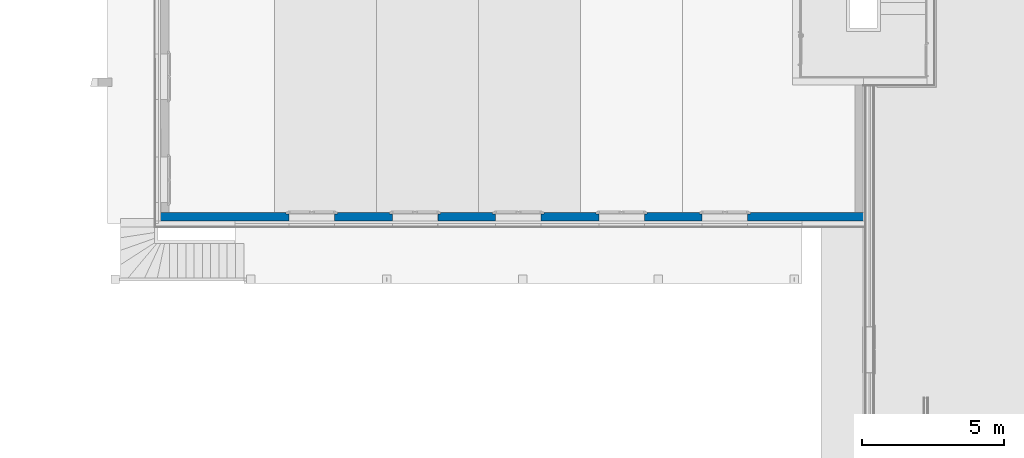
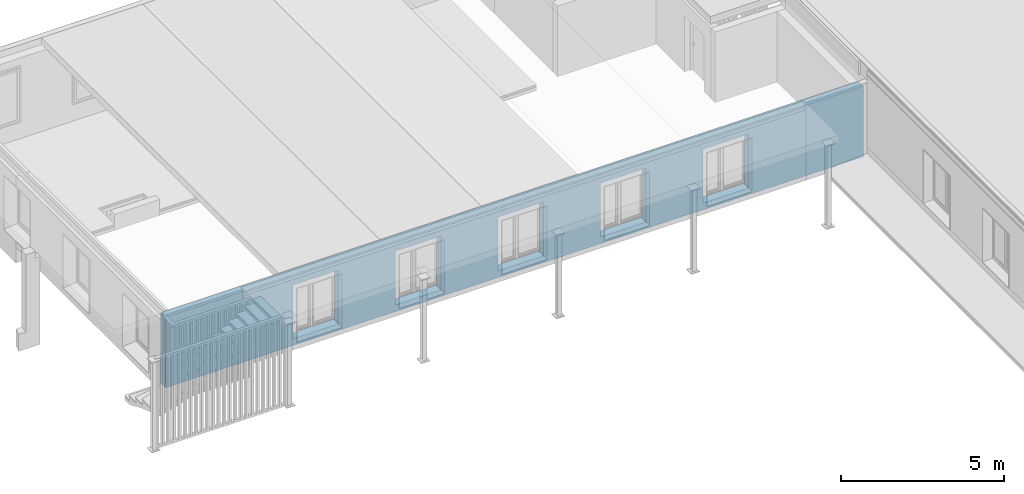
# One storey, part 4 of 20: 1 wall, 5 openings.
"""IFC4 building model written with IfcOpenShell, lengths in millimetres."""

from ifc_helpers import new_model, entity, si_unit, converted_unit, derived_unit, direction, frame, origin_with_axes, place, context, subcontext, project, spatial, polygons, material, constituent, constituent_set, type_object, element, save


model = new_model("IFC4")

# Units and contexts
model_context = context("Model", 3, precision=0.01, world=origin_with_axes(), true_north=direction((0.0, 1.0)))
body_context = subcontext(model_context, "Body", "Model", "MODEL_VIEW")
ifc_project = project(units=[si_unit("LENGTHUNIT", "METRE", prefix="MILLI"), si_unit("AREAUNIT", "SQUARE_METRE"), si_unit("VOLUMEUNIT", "CUBIC_METRE"), converted_unit("PLANEANGLEUNIT", "DEGREE", entity("IfcPlaneAngleMeasure", 0.0174532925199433), si_unit("PLANEANGLEUNIT", "RADIAN"), dimensions=[0, 0, 0, 0, 0, 0, 0]), converted_unit("TIMEUNIT", "Year", entity("IfcTimeMeasure", 31557600.0), si_unit("TIMEUNIT", "SECOND"), dimensions=[0, 0, 1, 0, 0, 0, 0]), si_unit("MASSUNIT", "GRAM", prefix="KILO"), si_unit("THERMODYNAMICTEMPERATUREUNIT", "DEGREE_CELSIUS"), si_unit("LUMINOUSINTENSITYUNIT", "LUMEN"), si_unit("ENERGYUNIT", "JOULE", prefix="MEGA"), derived_unit("THERMALCONDUCTANCEUNIT", [(si_unit("POWERUNIT", "WATT"), 1), (si_unit("LENGTHUNIT", "METRE"), -1), (si_unit("THERMODYNAMICTEMPERATUREUNIT", "KELVIN"), -1)]), derived_unit("SPECIFICHEATCAPACITYUNIT", [(si_unit("ENERGYUNIT", "JOULE"), 1), (si_unit("MASSUNIT", "GRAM", prefix="KILO"), -1), (si_unit("THERMODYNAMICTEMPERATUREUNIT", "KELVIN"), -1)]), derived_unit("MASSDENSITYUNIT", [(si_unit("MASSUNIT", "GRAM", prefix="KILO"), 1), (si_unit("VOLUMEUNIT", "CUBIC_METRE"), -1)])], contexts=[model_context])

# Site, building, storey
site_placement = place(None, origin_with_axes())
site = spatial("IfcSite", under=ifc_project, at=site_placement, Name="Gelände", CompositionType="ELEMENT")
building_placement = place(site_placement, origin_with_axes())
building = spatial("IfcBuilding", under=site, at=building_placement, Name="Gebäude", CompositionType="ELEMENT")
storey_placement = place(building_placement, frame((0.0, 0.0, 5.198845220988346e-05), z_axis=(0.0, 0.0, 1.0), x_axis=(1.0, 0.0, 0.0)))
storey = spatial("IfcBuildingStorey", under=building, at=storey_placement, Name="EG", CompositionType="ELEMENT", Elevation=0.0)

# Wall, openings
ifc_material = material(Name="Beton bewehrt")
ifc_constituent = constituent(ifc_material, Name="Beton bewehrt")
ifc_constituent_set = constituent_set(constituents=[ifc_constituent], Name="Aussenwand Typ 05")
wall_type = type_object("IfcWallType", Name="Aussenwand Typ 05 300", PredefinedType="NOTDEFINED")
wall_placement = place(storey_placement, frame((-6861.004181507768, 23157.59674077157, 0.0), z_axis=(0.0, 0.0, 1.0), x_axis=(1.0, 0.0, 0.0)))
wall = element("IfcWall", 1, at=wall_placement, inside=storey, type_object=wall_type, material=ifc_constituent_set, Name="Wand-014", PredefinedType="NOTDEFINED", context=body_context, shape_type="Tessellation", body=[
    polygons([(19100.0, 250.0, 2271.999948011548), (20704.0, 250.0, 2271.999948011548), (20704.0, 0.0, 2271.999948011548), (19100.0, 0.0, 2271.999948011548), (20704.0, 250.0, 249.9999481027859), (19100.0, 250.0, 249.9999481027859), (19000.0, 250.0, 249.9999481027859), (19000.0, 250.0, 2371.999948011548), (20804.0, 250.0, 2371.999948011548), (20804.0, 250.0, 249.9999481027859), (20704.0, 0.0, 249.9999481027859), (24790.00162627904, 0.0, 2649.999948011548), (0.0, 0.0, 2649.999948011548), (0.0, 0.0, 0.0), (24790.00162627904, 0.0, 0.0), (4531.999999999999, 0.0, 2271.999948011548), (6136.0, 0.0, 2271.999948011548), (6136.0, 0.0, 249.9999481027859), (4531.999999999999, 0.0, 249.9999481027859), (9777.999999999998, 0.0, 249.9999481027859), (8173.999999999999, 0.0, 249.9999481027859), (8173.999999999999, 0.0, 2271.999948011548), (9777.999999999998, 0.0, 2271.999948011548), (11816.0, 0.0, 2271.999948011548), (13420.0, 0.0, 2271.999948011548), (13420.0, 0.0, 249.9999481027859), (11816.0, 0.0, 249.9999481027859), (17062.0, 0.0, 249.9999481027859), (15458.0, 0.0, 249.9999481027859), (15458.0, 0.0, 2271.999948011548), (17062.0, 0.0, 2271.999948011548), (19100.0, 0.0, 249.9999481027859), (20804.0, 300.0000000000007, 249.9999481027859), (19000.0, 300.0000000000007, 249.9999481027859), (19000.0, 300.0000000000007, 2371.999948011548), (20804.0, 300.0000000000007, 2371.999948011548), (24790.00162627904, 300.0000000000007, 2649.999948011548), (0.0, 300.0000000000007, 2649.999948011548), (0.0, 300.0000000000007, 0.0), (24790.00162627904, 300.0000000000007, 0.0), (4531.999999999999, 250.0, 2271.999948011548), (6136.0, 250.0, 2271.999948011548), (6136.0, 250.0, 249.9999481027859), (6236.0, 250.0, 249.9999481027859), (6236.0, 300.0000000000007, 249.9999481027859), (4431.999999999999, 300.0000000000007, 249.9999481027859), (4431.999999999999, 250.0, 249.9999481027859), (4531.999999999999, 250.0, 249.9999481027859), (9777.999999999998, 250.0, 249.9999481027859), (9878.0, 250.0, 249.9999481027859), (9878.0, 300.0000000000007, 249.9999481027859), (8073.999999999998, 300.0000000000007, 249.9999481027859), (8073.999999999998, 250.0, 249.9999481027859), (8173.999999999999, 250.0, 249.9999481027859), (8173.999999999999, 250.0, 2271.999948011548), (9777.999999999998, 250.0, 2271.999948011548), (11816.0, 250.0, 2271.999948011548), (13420.0, 250.0, 2271.999948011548), (13420.0, 250.0, 249.9999481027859), (11716.0, 250.0, 249.9999481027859), (11816.0, 250.0, 249.9999481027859), (13520.0, 250.0, 249.9999481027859), (13520.0, 300.0000000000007, 249.9999481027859), (11716.0, 300.0000000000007, 249.9999481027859), (17162.0, 300.0000000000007, 249.9999481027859), (15358.0, 300.0000000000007, 249.9999481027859), (15358.0, 250.0, 249.9999481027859), (15458.0, 250.0, 249.9999481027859), (17062.0, 250.0, 249.9999481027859), (17162.0, 250.0, 249.9999481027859), (15458.0, 250.0, 2271.999948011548), (17062.0, 250.0, 2271.999948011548), (6236.0, 300.0000000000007, 2371.999948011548), (4431.999999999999, 300.0000000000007, 2371.999948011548), (9878.0, 300.0000000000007, 2371.999948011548), (8073.999999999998, 300.0000000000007, 2371.999948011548), (13520.0, 300.0000000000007, 2371.999948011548), (11716.0, 300.0000000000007, 2371.999948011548), (17162.0, 300.0000000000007, 2371.999948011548), (15358.0, 300.0000000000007, 2371.999948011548), (4431.999999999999, 250.0, 2371.999948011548), (6236.0, 250.0, 2371.999948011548), (9878.0, 250.0, 2371.999948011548), (8073.999999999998, 250.0, 2371.999948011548), (11716.0, 250.0, 2371.999948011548), (13520.0, 250.0, 2371.999948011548), (15358.0, 250.0, 2371.999948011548), (17162.0, 250.0, 2371.999948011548)], [[[1, 2, 3, 4]], [[5, 2, 1, 6, 7, 8, 9, 10]], [[2, 5, 11, 3]], [[12, 13, 14, 15], [16, 17, 18, 19], [20, 21, 22, 23], [24, 25, 26, 27], [28, 29, 30, 31], [4, 3, 11, 32]], [[6, 1, 4, 32]], [[5, 10, 33, 34, 7, 6, 32, 11]], [[34, 35, 8, 7]], [[35, 36, 9, 8]], [[36, 33, 10, 9]], [[12, 37, 38, 13]], [[39, 14, 13, 38]], [[15, 14, 39, 40]], [[40, 37, 12, 15]], [[41, 42, 17, 16]], [[42, 43, 18, 17]], [[43, 44, 45, 46, 47, 48, 19, 18]], [[48, 41, 16, 19]], [[21, 20, 49, 50, 51, 52, 53, 54]], [[22, 21, 54, 55]], [[23, 22, 55, 56]], [[20, 23, 56, 49]], [[57, 58, 25, 24]], [[58, 59, 26, 25]], [[60, 61, 27, 26, 59, 62, 63, 64]], [[61, 57, 24, 27]], [[65, 66, 67, 68, 29, 28, 69, 70]], [[30, 29, 68, 71]], [[31, 30, 71, 72]], [[28, 31, 72, 69]], [[39, 38, 37, 40], [46, 45, 73, 74], [75, 76, 52, 51], [64, 63, 77, 78], [79, 80, 66, 65], [34, 33, 36, 35]], [[43, 42, 41, 48, 47, 81, 82, 44]], [[73, 45, 44, 82]], [[46, 74, 81, 47]], [[83, 50, 49, 56, 55, 54, 53, 84]], [[50, 83, 75, 51]], [[84, 53, 52, 76]], [[60, 85, 86, 62, 59, 58, 57, 61]], [[77, 63, 62, 86]], [[64, 78, 85, 60]], [[87, 67, 66, 80]], [[71, 68, 67, 87, 88, 70, 69, 72]], [[70, 88, 79, 65]], [[74, 73, 82, 81]], [[83, 84, 76, 75]], [[78, 77, 86, 85]], [[88, 87, 80, 79]]], closed=True),
])
opening_1_placement = place(wall_placement, frame((12618.0, 0.0, 309.999948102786), z_axis=(0.0, 0.0, 1.0), x_axis=(1.0, 0.0, 0.0)))
element("IfcOpeningElement", 2, at=opening_1_placement, cuts=wall, Name="Fenster-004", context=body_context, identifier="Reference", shape_type="Tessellation", body=[
    polygons([(-800.0000000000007, 0.0, 1961.999999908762), (799.9999999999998, 0.0, 1961.999999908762), (799.9999999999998, -1.000000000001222, 1961.999999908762), (802.0000000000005, -1.000000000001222, 1961.999999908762), (802.0000000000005, 250.0, 1961.999999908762), (-802.0000000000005, 250.0, 1961.999999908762), (-802.0000000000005, -1.000000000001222, 1961.999999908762), (-800.0000000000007, -1.000000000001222, 1961.999999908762), (-800.0000000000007, 0.0, 2249.999999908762), (799.9999999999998, 0.0, 2249.999999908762), (799.9999999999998, -149.9999999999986, 2249.999999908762), (799.9999999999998, -149.9999999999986, 1959.999999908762), (799.9999999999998, -1.000000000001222, 1959.999999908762), (-800.0000000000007, -1.000000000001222, 1959.999999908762), (-802.0000000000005, -1.000000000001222, -60.00000000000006), (802.0000000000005, -1.000000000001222, -60.00000000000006), (802.0000000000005, 250.0, -60.00000000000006), (902.0000000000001, 250.0, -60.00000000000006), (902.0000000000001, 250.0, 2061.999999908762), (-902.0000000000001, 250.0, 2061.999999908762), (-902.0000000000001, 250.0, -60.00000000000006), (-802.0000000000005, 250.0, -60.00000000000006), (-800.0000000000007, -149.9999999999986, 1959.999999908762), (-800.0000000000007, -149.9999999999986, 2249.999999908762), (-902.0000000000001, 301.0000000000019, -60.00000000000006), (902.0000000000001, 301.0000000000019, -60.00000000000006), (902.0000000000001, 301.0000000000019, 2061.999999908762), (-902.0000000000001, 301.0000000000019, 2061.999999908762)], [[[1, 2, 3, 4, 5, 6, 7, 8]], [[2, 1, 9, 10]], [[3, 2, 10, 11, 12, 13]], [[14, 8, 7, 15, 16, 4, 3, 13]], [[17, 5, 4, 16]], [[6, 5, 17, 18, 19, 20, 21, 22]], [[6, 22, 15, 7]], [[1, 8, 14, 23, 24, 9]], [[9, 24, 11, 10]], [[24, 23, 12, 11]], [[14, 13, 12, 23]], [[17, 16, 15, 22, 21, 25, 26, 18]], [[19, 18, 26, 27]], [[20, 19, 27, 28]], [[21, 20, 28, 25]], [[27, 26, 25, 28]]], closed=True),
])
opening_2_placement = place(wall_placement, frame((5334.0, 0.0, 309.999948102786), z_axis=(0.0, 0.0, 1.0), x_axis=(1.0, 0.0, 0.0)))
element("IfcOpeningElement", 3, at=opening_2_placement, cuts=wall, Name="Fenster-004", context=body_context, identifier="Reference", shape_type="Tessellation", body=[
    polygons([(-800.0000000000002, 0.0, 1961.999999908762), (800.0000000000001, 0.0, 1961.999999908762), (800.0, -1.000000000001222, 1961.999999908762), (802.0000000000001, -1.000000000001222, 1961.999999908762), (802.0000000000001, 250.0, 1961.999999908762), (-802.0, 250.0, 1961.999999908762), (-802.0, -1.000000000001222, 1961.999999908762), (-800.0000000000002, -1.000000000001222, 1961.999999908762), (-800.0000000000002, 0.0, 2249.999999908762), (800.0000000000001, 0.0, 2249.999999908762), (800.0000000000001, -149.9999999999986, 2249.999999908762), (800.0000000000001, -149.9999999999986, 1959.999999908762), (800.0000000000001, -1.000000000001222, 1959.999999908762), (-800.0000000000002, -1.000000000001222, 1959.999999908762), (-802.0, -1.000000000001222, -60.00000000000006), (802.0000000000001, -1.000000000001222, -60.00000000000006), (802.0000000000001, 250.0, -60.00000000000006), (902.0000000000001, 250.0, -60.00000000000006), (902.0000000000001, 250.0, 2061.999999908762), (-902.0000000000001, 250.0, 2061.999999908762), (-902.0000000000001, 250.0, -60.00000000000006), (-802.0, 250.0, -60.00000000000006), (-800.0000000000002, -149.9999999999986, 1959.999999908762), (-800.0000000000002, -149.9999999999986, 2249.999999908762), (-902.0000000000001, 301.0000000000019, -60.00000000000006), (902.0000000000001, 301.0000000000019, -60.00000000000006), (902.0000000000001, 301.0000000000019, 2061.999999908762), (-902.0000000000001, 301.0000000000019, 2061.999999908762)], [[[1, 2, 3, 4, 5, 6, 7, 8]], [[2, 1, 9, 10]], [[3, 2, 10, 11, 12, 13]], [[14, 8, 7, 15, 16, 4, 3, 13]], [[17, 5, 4, 16]], [[6, 5, 17, 18, 19, 20, 21, 22]], [[6, 22, 15, 7]], [[1, 8, 14, 23, 24, 9]], [[9, 24, 11, 10]], [[24, 23, 12, 11]], [[14, 13, 12, 23]], [[17, 16, 15, 22, 21, 25, 26, 18]], [[19, 18, 26, 27]], [[20, 19, 27, 28]], [[21, 20, 28, 25]], [[27, 26, 25, 28]]], closed=True),
])
opening_3_placement = place(wall_placement, frame((16260.0, 0.0, 309.999948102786), z_axis=(0.0, 0.0, 1.0), x_axis=(1.0, 0.0, 0.0)))
element("IfcOpeningElement", 4, at=opening_3_placement, cuts=wall, Name="Fenster-004", context=body_context, identifier="Reference", shape_type="Tessellation", body=[
    polygons([(-799.999999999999, 0.0, 1961.999999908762), (800.0000000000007, 0.0, 1961.999999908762), (800.0000000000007, -1.000000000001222, 1961.999999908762), (801.9999999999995, -1.000000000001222, 1961.999999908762), (801.9999999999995, 250.0, 1961.999999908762), (-801.9999999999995, 250.0, 1961.999999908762), (-801.9999999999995, -1.000000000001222, 1961.999999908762), (-799.999999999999, -1.000000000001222, 1961.999999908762), (-799.999999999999, 0.0, 2249.999999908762), (800.0000000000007, 0.0, 2249.999999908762), (800.0000000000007, -149.9999999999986, 2249.999999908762), (800.0000000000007, -149.9999999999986, 1959.999999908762), (800.0000000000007, -1.000000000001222, 1959.999999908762), (-799.999999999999, -1.000000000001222, 1959.999999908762), (-801.9999999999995, -1.000000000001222, -60.00000000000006), (801.9999999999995, -1.000000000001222, -60.00000000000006), (801.9999999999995, 250.0, -60.00000000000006), (901.9999999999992, 250.0, -60.00000000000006), (901.9999999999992, 250.0, 2061.999999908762), (-901.9999999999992, 250.0, 2061.999999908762), (-901.9999999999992, 250.0, -60.00000000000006), (-801.9999999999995, 250.0, -60.00000000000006), (-799.999999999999, -149.9999999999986, 1959.999999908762), (-799.999999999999, -149.9999999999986, 2249.999999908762), (-901.9999999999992, 301.0000000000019, -60.00000000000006), (901.9999999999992, 301.0000000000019, -60.00000000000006), (901.9999999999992, 301.0000000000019, 2061.999999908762), (-901.9999999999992, 301.0000000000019, 2061.999999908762)], [[[1, 2, 3, 4, 5, 6, 7, 8]], [[2, 1, 9, 10]], [[3, 2, 10, 11, 12, 13]], [[14, 8, 7, 15, 16, 4, 3, 13]], [[17, 5, 4, 16]], [[6, 5, 17, 18, 19, 20, 21, 22]], [[6, 22, 15, 7]], [[1, 8, 14, 23, 24, 9]], [[9, 24, 11, 10]], [[24, 23, 12, 11]], [[14, 13, 12, 23]], [[17, 16, 15, 22, 21, 25, 26, 18]], [[19, 18, 26, 27]], [[20, 19, 27, 28]], [[21, 20, 28, 25]], [[27, 26, 25, 28]]], closed=True),
])
opening_4_placement = place(wall_placement, frame((19902.0, 0.0, 309.999948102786), z_axis=(0.0, 0.0, 1.0), x_axis=(1.0, 0.0, 0.0)))
element("IfcOpeningElement", 5, at=opening_4_placement, cuts=wall, Name="Fenster-004", context=body_context, identifier="Reference", shape_type="Tessellation", body=[
    polygons([(-799.999999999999, 0.0, 1961.999999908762), (800.0000000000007, 0.0, 1961.999999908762), (800.0000000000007, -1.000000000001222, 1961.999999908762), (801.9999999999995, -1.000000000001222, 1961.999999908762), (801.9999999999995, 250.0, 1961.999999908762), (-801.9999999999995, 250.0, 1961.999999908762), (-801.9999999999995, -1.000000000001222, 1961.999999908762), (-799.999999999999, -1.000000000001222, 1961.999999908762), (-799.999999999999, 0.0, 2249.999999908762), (800.0000000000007, 0.0, 2249.999999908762), (800.0000000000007, -149.9999999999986, 2249.999999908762), (800.0000000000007, -149.9999999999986, 1959.999999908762), (800.0000000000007, -1.000000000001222, 1959.999999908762), (-799.999999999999, -1.000000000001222, 1959.999999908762), (-801.9999999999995, -1.000000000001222, -60.00000000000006), (801.9999999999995, -1.000000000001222, -60.00000000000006), (801.9999999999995, 250.0, -60.00000000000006), (901.9999999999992, 250.0, -60.00000000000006), (901.9999999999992, 250.0, 2061.999999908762), (-901.9999999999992, 250.0, 2061.999999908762), (-901.9999999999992, 250.0, -60.00000000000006), (-801.9999999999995, 250.0, -60.00000000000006), (-799.999999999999, -149.9999999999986, 1959.999999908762), (-799.999999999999, -149.9999999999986, 2249.999999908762), (-901.9999999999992, 301.0000000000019, -60.00000000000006), (901.9999999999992, 301.0000000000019, -60.00000000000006), (901.9999999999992, 301.0000000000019, 2061.999999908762), (-901.9999999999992, 301.0000000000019, 2061.999999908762)], [[[1, 2, 3, 4, 5, 6, 7, 8]], [[2, 1, 9, 10]], [[3, 2, 10, 11, 12, 13]], [[14, 8, 7, 15, 16, 4, 3, 13]], [[17, 5, 4, 16]], [[6, 5, 17, 18, 19, 20, 21, 22]], [[6, 22, 15, 7]], [[1, 8, 14, 23, 24, 9]], [[9, 24, 11, 10]], [[24, 23, 12, 11]], [[14, 13, 12, 23]], [[17, 16, 15, 22, 21, 25, 26, 18]], [[19, 18, 26, 27]], [[20, 19, 27, 28]], [[21, 20, 28, 25]], [[27, 26, 25, 28]]], closed=True),
])
opening_5_placement = place(wall_placement, frame((8976.0, 0.0, 309.999948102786), z_axis=(0.0, 0.0, 1.0), x_axis=(1.0, 0.0, 0.0)))
element("IfcOpeningElement", 6, at=opening_5_placement, cuts=wall, Name="Fenster-004", context=body_context, identifier="Reference", shape_type="Tessellation", body=[
    polygons([(-800.0, 0.0, 1961.999999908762), (800.0000000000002, 0.0, 1961.999999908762), (800.0000000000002, -1.000000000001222, 1961.999999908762), (802.0, -1.000000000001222, 1961.999999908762), (802.0, 250.0, 1961.999999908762), (-802.0, 250.0, 1961.999999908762), (-802.0, -1.000000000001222, 1961.999999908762), (-800.0, -1.000000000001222, 1961.999999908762), (-800.0, 0.0, 2249.999999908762), (800.0000000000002, 0.0, 2249.999999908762), (800.0000000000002, -149.9999999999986, 2249.999999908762), (800.0000000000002, -149.9999999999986, 1959.999999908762), (800.0000000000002, -1.000000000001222, 1959.999999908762), (-800.0, -1.000000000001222, 1959.999999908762), (-802.0, -1.000000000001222, -60.00000000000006), (802.0, -1.000000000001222, -60.00000000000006), (802.0, 250.0, -60.00000000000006), (902.0000000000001, 250.0, -60.00000000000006), (902.0000000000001, 250.0, 2061.999999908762), (-902.0000000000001, 250.0, 2061.999999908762), (-902.0000000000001, 250.0, -60.00000000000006), (-802.0000000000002, 250.0, -60.00000000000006), (-800.0, -149.9999999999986, 1959.999999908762), (-800.0, -149.9999999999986, 2249.999999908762), (-902.0000000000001, 301.0000000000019, -60.00000000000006), (902.0000000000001, 301.0000000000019, -60.00000000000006), (902.0000000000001, 301.0000000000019, 2061.999999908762), (-902.0000000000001, 301.0000000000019, 2061.999999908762)], [[[1, 2, 3, 4, 5, 6, 7, 8]], [[2, 1, 9, 10]], [[3, 2, 10, 11, 12, 13]], [[14, 8, 7, 15, 16, 4, 3, 13]], [[17, 5, 4, 16]], [[6, 5, 17, 18, 19, 20, 21, 22]], [[6, 22, 15, 7]], [[1, 8, 14, 23, 24, 9]], [[9, 24, 11, 10]], [[24, 23, 12, 11]], [[14, 13, 12, 23]], [[17, 16, 15, 22, 21, 25, 26, 18]], [[19, 18, 26, 27]], [[20, 19, 27, 28]], [[21, 20, 28, 25]], [[27, 26, 25, 28]]], closed=True),
])

save(model, "model.ifc")
